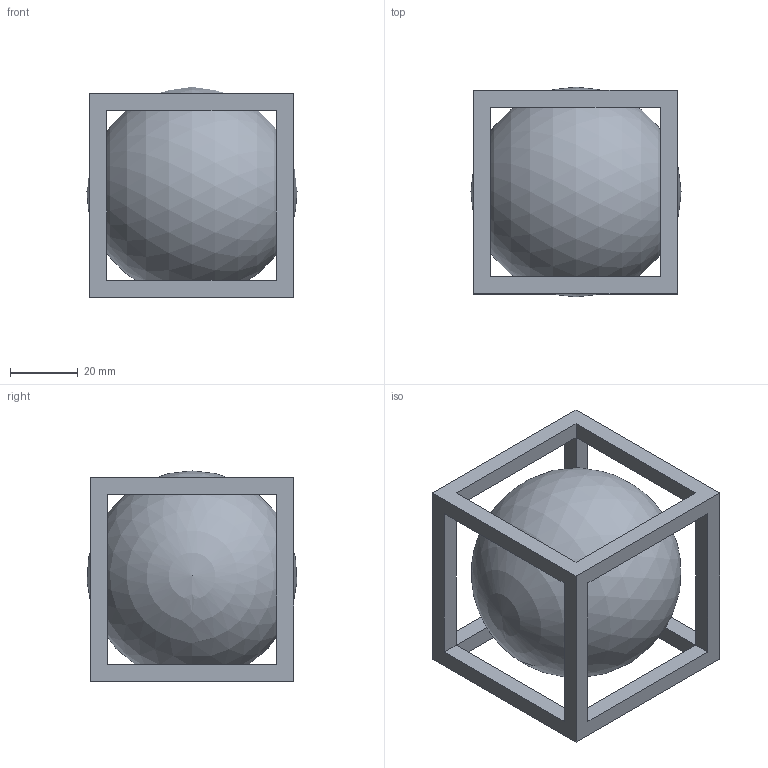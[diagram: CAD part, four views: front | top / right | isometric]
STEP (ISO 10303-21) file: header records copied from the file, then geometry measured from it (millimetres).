
FILE_DESCRIPTION(/* description */ (''),/* implementation_level */ '2;1');
FILE_NAME(/* name */ '5fb6941a32c0d9192d3d03a7',/* time_stamp */ '2020-11-19T15:49:47+00:00',/* author */ (''),/* organization */ (''),/* preprocessor_version */ 'ST-DEVELOPER v16.7',/* originating_system */ $,/* authorisation */ $);
FILE_SCHEMA (('AUTOMOTIVE_DESIGN {1 0 10303 214 3 1 1}'));
Length unit declared in the file: metre
Products named in the file (3): Assembly 1; Part 1
Assembly tree (2 placements, depth 2):
  Assembly 1
    Part 1
    Part 1
Bounding box: 62 x 61.9 x 62.04 mm (x, y, z)
Volume: 140788.2 mm3; surface area: 24676.3 mm2
Topology: 2 solids, 2 shells, 31 faces, 75 edges, 42 vertices
Faces by surface type: plane 30, sphere 1
Entity records: 933 total; most frequent: CARTESIAN_POINT 147, ORIENTED_EDGE 144, DIRECTION 140, EDGE_CURVE 72, LINE 72, VECTOR 72, VERTEX_POINT 41, FACE_BOUND 37
